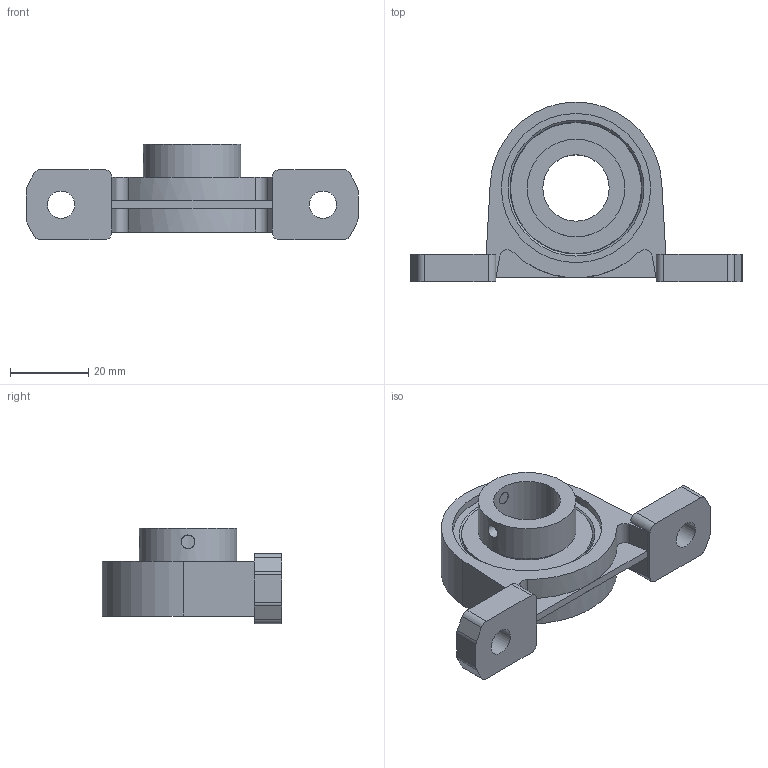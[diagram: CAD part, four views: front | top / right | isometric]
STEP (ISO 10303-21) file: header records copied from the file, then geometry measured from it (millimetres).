
FILE_DESCRIPTION((''),'2;1');
FILE_NAME('\\Ts-tgl068\J-Cad-D-BASE\00.3DCADデータ作成フォルダ\11.エコシリーズ\MUSP000\MUSP003.stp','2014-11-12T09:19:20',('btec_1106_2'),(''),'Autodesk Inventor 2012','Autodesk Inventor 2012','');
FILE_SCHEMA(('AUTOMOTIVE_DESIGN { 1 0 10303 214 1 1 1 1 }'));
Length unit declared in the file: millimetre
Products named in the file (3): MUSP000; SP003; U003
Assembly tree (2 placements, depth 2):
  MUSP000
    SP003
    U003
Bounding box: 85 x 46 x 24.5 mm (x, y, z)
Volume: 23949.3 mm3; surface area: 12445.2 mm2
Topology: 2 solids, 2 shells, 79 faces, 199 edges, 129 vertices
Faces by surface type: plane 44, cylinder 30, cone 3, sphere 2
Full cylindrical faces by diameter (mm): 3.242 x1, 3.5 x1, 7 x2, 17 x1, 23.1 x1, 25 x1, 38.2 x2
Entity records: 2450 total; most frequent: CARTESIAN_POINT 516, DIRECTION 402, ORIENTED_EDGE 352, EDGE_CURVE 176, AXIS2_PLACEMENT_3D 148, VERTEX_POINT 122, EDGE_LOOP 110, VECTOR 106
